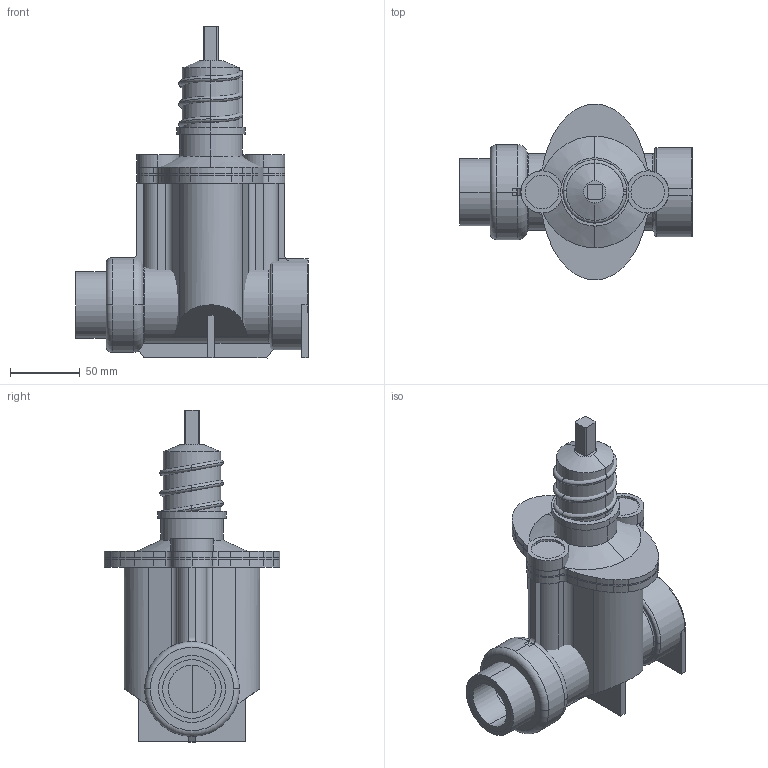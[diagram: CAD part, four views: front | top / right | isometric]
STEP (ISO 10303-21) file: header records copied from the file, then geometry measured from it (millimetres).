
FILE_DESCRIPTION(('STEP AP214'),'1');
FILE_NAME('S:/EK/USER/CAT6/3DHomepage_27-04-2012/neu_22-02-2013/2520/2520_PN16_DN40_C0100027.STP','2013-02-26T12:15:32',(' '),(' '),'Spatial InterOp 3D',' ',' ');
FILE_SCHEMA(('automotive_design'));
Length unit declared in the file: millimetre
Products named in the file (38): 3D-Objekt
Bounding box: 167 x 125.81 x 238 mm (x, y, z)
Volume: 1155706.2 mm3; surface area: 239165 mm2
Topology: 38 solids, 38 shells, 316 faces, 730 edges, 495 vertices
Faces by surface type: cylinder 143, plane 135, torus 34, cone 4
Entity records: 12631 total; most frequent: DIRECTION 1859, CARTESIAN_POINT 1579, ORIENTED_EDGE 1460, AXIS2_PLACEMENT_3D 775, EDGE_CURVE 730, VERTEX_POINT 495, CIRCLE 419, STYLED_ITEM 354
